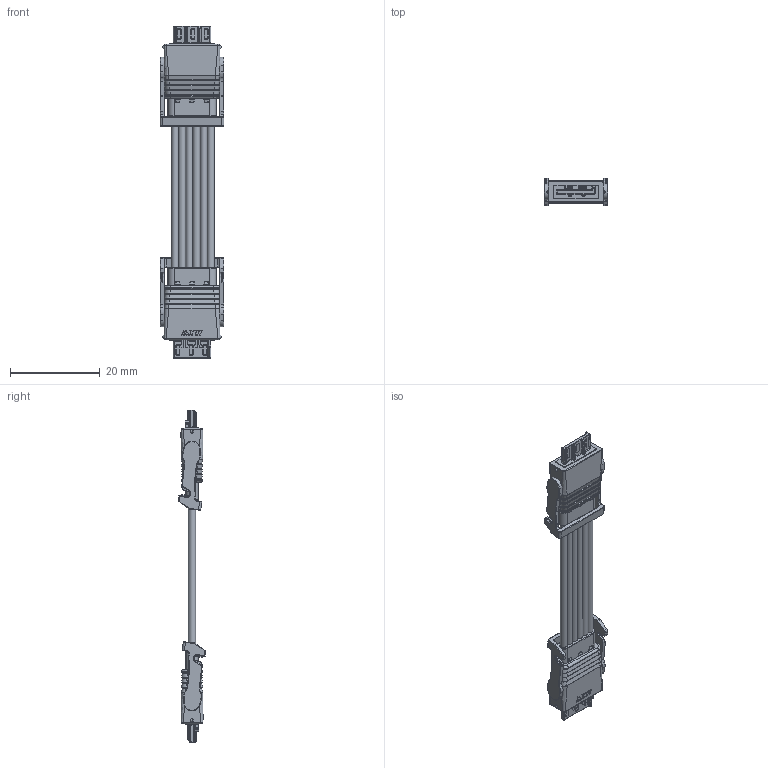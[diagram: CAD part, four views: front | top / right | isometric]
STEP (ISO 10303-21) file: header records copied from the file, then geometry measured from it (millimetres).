
FILE_DESCRIPTION((''),'2;1');
FILE_NAME('SSL11-P6L2P-T22DXX_EQ_SW0001','2014-07-25T',('LT0842'),(''),'PRO/ENGINEER BY PARAMETRIC TECHNOLOGY CORPORATION, 2013050','PRO/ENGINEER BY PARAMETRIC TECHNOLOGY CORPORATION, 2013050','');
FILE_SCHEMA(('CONFIG_CONTROL_DESIGN'));
Products named in the file (1): SSL11-P6L2P-T22DXX_EQ_SW0001
Bounding box: 14.2 x 5.97 x 73.8 mm (x, y, z)
Volume: 2280.4 mm3; surface area: 2953.4 mm2
Topology: 1 solids, 3 shells, 1750 faces, 4362 edges, 2630 vertices
Faces by surface type: plane 584, cylinder 558, bspline 260, torus 158, cone 88, extrusion 82, sphere 20
Entity records: 70953 total; most frequent: CARTESIAN_POINT 22550, ORIENTED_EDGE 8684, DIRECTION 7780, EDGE_CURVE 4342, AXIS2_PLACEMENT_3D 2748, VERTEX_POINT 2630, VECTOR 2284, LINE 2202
